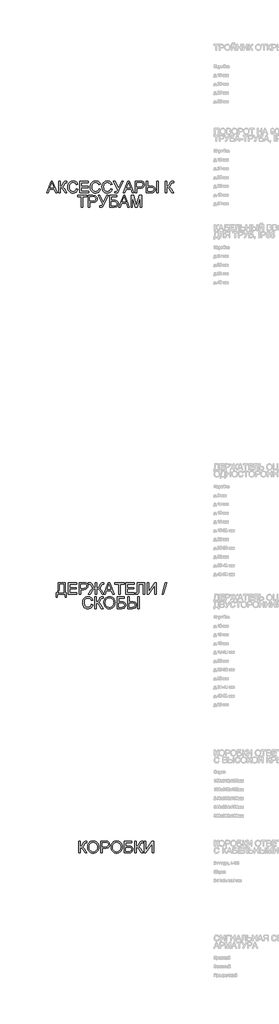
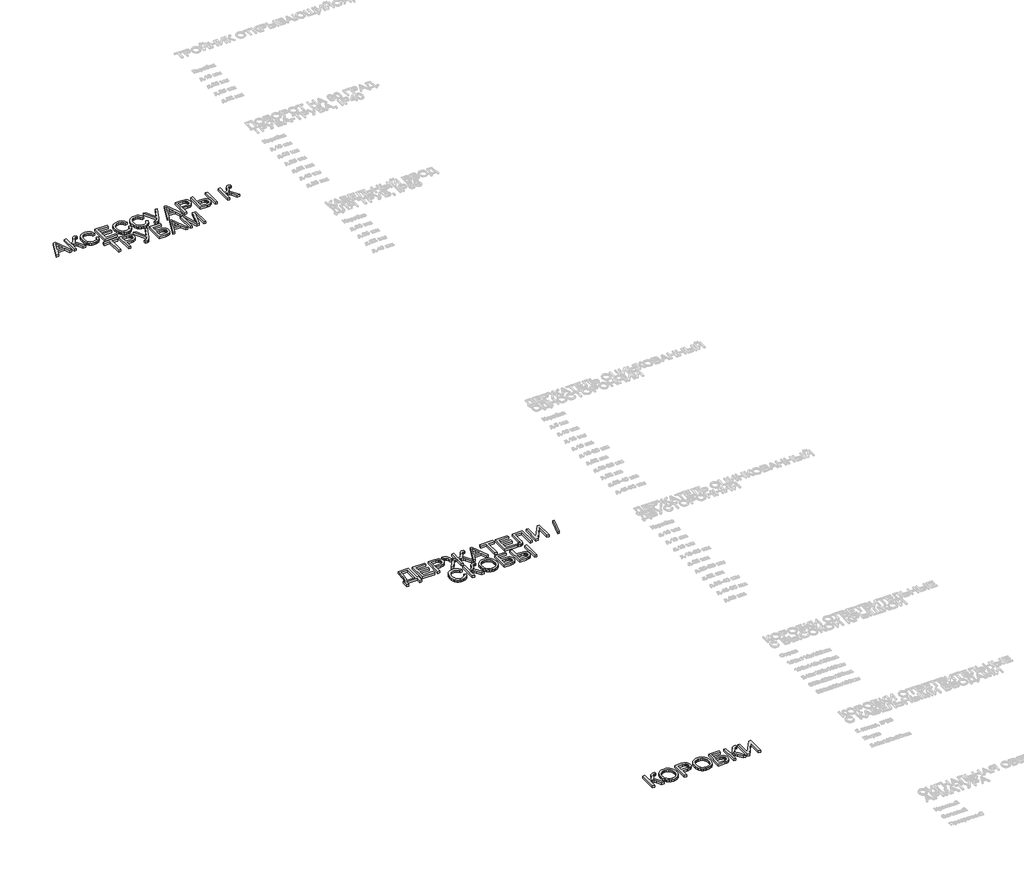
# One storey, part 5 of 98: 3 proxies.
"""IFC4 building model written with IfcOpenShell, lengths in millimetres."""

from ifc_helpers import new_model, si_unit, origin, origin_with_axes, place, context, project, spatial, polyline, outline, extrude, element, save

model = new_model("IFC4")

# Units and contexts
model_context = context("Model", 3, world=origin())
ifc_project = project(units=[si_unit("LENGTHUNIT", "METRE", prefix="MILLI")], contexts=[model_context])

# Site, building, storey
site = spatial("IfcSite", under=ifc_project)
building = spatial("IfcBuilding", under=site)
storey = spatial("IfcBuildingStorey", under=building, Name="Этаж 01", Elevation=0.0)

# Proxies
placement = place(None, origin())
element("IfcBuildingElementProxy", 1, Name="400", ObjectType="400", at=placement, inside=storey, context=model_context, shape_type="SweptSolid", body=[
    extrude(outline(polyline([(-5778.5166082, -22146.8954438), (-5618.1200583, -21745.0702032), (-5575.347645, -21745.0702032), (-5414.9510951, -22146.8954438), (-5468.0242043, -22146.8954438), (-5514.0339791, -22021.3250561), (-5679.531826, -22021.3250561), (-5725.443499, -22146.8954438), (-5778.5166082, -22146.8954438)]), holes=[polyline([(-5661.0886753, -21971.096901), (-5532.379028, -21971.096901), (-5568.5786163, -21872.3083226), (-5596.7338516, -21795.2983583), (-5621.7498273, -21863.6753584), (-5661.0886753, -21971.096901)])]), origin_with_axes(), (0.0, 0.0, 1.0), 50.0),
    extrude(outline(polyline([(-5361.2893747, -21745.0702032), (-5311.0612197, -21745.0702032), (-5311.0612197, -21920.868746), (-5277.0566606, -21917.5455453), (-5254.8979017, -21907.5759432), (-5236.9820486, -21884.1173346), (-5215.7062065, -21840.3271145), (-5187.9924295, -21784.1637965), (-5174.6260504, -21768.9457447), (-5156.5998326, -21756.3519177), (-5135.2013632, -21747.8906318), (-5111.7182292, -21745.0702032), (-5078.7560024, -21745.6588144), (-5078.7560024, -21795.8869695), (-5089.8415132, -21795.5926639), (-5100.927024, -21795.2983583), (-5123.9319114, -21798.3149906), (-5140.1677702, -21807.3648877), (-5154.147286, -21826.3721241), (-5169.9907372, -21859.0645708), (-5189.4271693, -21899.7768449), (-5205.5526634, -21922.0459683), (-5221.4574284, -21933.7691412), (-5240.2316729, -21942.8435638), (-5220.7768467, -21951.1209087), (-5201.4569106, -21965.5541456), (-5182.2718645, -21986.1432746), (-5163.2217085, -22012.8882957), (-5078.7560024, -22146.8954438), (-5137.0285105, -22146.8954438), (-5208.4466685, -22033.6858911), (-5236.0255554, -21997.3759382), (-5258.7238745, -21974.5795172), (-5281.9372284, -21962.549776), (-5311.0612197, -21958.5398623), (-5311.0612197, -22146.8954438), (-5361.2893747, -22146.8954438), (-5361.2893747, -21745.0702032)])), origin_with_axes(), (0.0, 0.0, 1.0), 50.0),
    extrude(outline(polyline([(-4752.2729944, -22004.0591278), (-4702.0448394, -22017.008574), (-4711.9837846, -22048.2448211), (-4725.2214051, -22075.5385995), (-4741.7577008, -22098.8899091), (-4761.5926717, -22118.29875), (-4784.278728, -22133.5566558), (-4809.3682801, -22144.4551599), (-4836.8613279, -22150.9942624), (-4866.7578713, -22153.1739632), (-4897.3871131, -22151.5246256), (-4925.0181167, -22146.5766127), (-4949.6508819, -22138.3299247), (-4971.2854089, -22126.7845614), (-4990.2190689, -22112.1122011), (-5006.7492332, -22094.4845222), (-5020.8759019, -22073.9015246), (-5032.5990748, -22050.3632083), (-5048.3812124, -21998.4918469), (-5053.6419249, -21942.9416657), (-5047.6944993, -21884.3503266), (-5040.2602173, -21858.0528953), (-5029.8522225, -21833.7542895), (-5016.7035069, -21811.8561137), (-5001.0470623, -21792.7599725), (-4982.8828888, -21776.4658658), (-4962.2109864, -21762.9737936), (-4939.7333965, -21752.3941206), (-4916.1521606, -21744.8372113), (-4865.6787508, -21738.7916838), (-4836.9502327, -21740.7475897), (-4810.6068162, -21746.6153076), (-4786.6485012, -21756.3948373), (-4765.0752879, -21770.0861789), (-4746.2427954, -21787.3275817), (-4730.5066431, -21807.7572952), (-4717.8668309, -21831.3753193), (-4708.3233588, -21858.181654), (-4758.5515138, -21870.1500815), (-4775.9645949, -21833.5212976), (-4799.7542973, -21808.3949573), (-4830.2149265, -21793.8636185), (-4867.6407881, -21789.0198389), (-4910.7810834, -21794.390916), (-4929.4633574, -21801.1047624), (-4946.2203823, -21810.5041474), (-4973.1125562, -21835.6672759), (-4990.6114764, -21868.1880442), (-5000.2131965, -21904.9517183), (-5003.4137698, -21942.8435638), (-4999.6245853, -21989.2457461), (-4988.2570316, -22029.3694091), (-4968.8819132, -22061.681711), (-4941.0700344, -22084.6498102), (-4907.7276629, -22098.3718086), (-4871.7610665, -22102.9458081), (-4849.9242044, -22101.388441), (-4829.8347818, -22096.7163396), (-4811.4927986, -22088.9295041), (-4794.898255, -22078.0279343), (-4780.4435582, -22064.0606812), (-4768.5211159, -22047.0767958), (-4759.130928, -22027.076278), (-4752.2729944, -22004.0591278)])), origin_with_axes(), (0.0, 0.0, 1.0), 50.0),
    extrude(outline(polyline([(-4632.9811261, -22146.8954438), (-4632.9811261, -21745.0702032), (-4344.1692345, -21745.0702032), (-4344.1692345, -21795.2983583), (-4582.7529711, -21795.2983583), (-4582.7529711, -21914.5902266), (-4356.7262732, -21914.5902266), (-4356.7262732, -21964.8183816), (-4582.7529711, -21964.8183816), (-4582.7529711, -22096.6672887), (-4337.8907151, -22096.6672887), (-4337.8907151, -22146.8954438), (-4632.9811261, -22146.8954438)])), origin_with_axes(), (0.0, 0.0, 1.0), 50.0),
    extrude(outline(polyline([(-3980.0151102, -22004.0591278), (-3929.7869551, -22017.008574), (-3939.7259003, -22048.2448211), (-3952.9635208, -22075.5385995), (-3969.4998165, -22098.8899091), (-3989.3347874, -22118.29875), (-4012.0208438, -22133.5566558), (-4037.1103958, -22144.4551599), (-4064.6034436, -22150.9942624), (-4094.4999871, -22153.1739632), (-4125.1292289, -22151.5246256), (-4152.7602324, -22146.5766127), (-4177.3929976, -22138.3299247), (-4199.0275246, -22126.7845614), (-4217.9611847, -22112.1122011), (-4234.491349, -22094.4845222), (-4248.6180176, -22073.9015246), (-4260.3411905, -22050.3632083), (-4276.1233281, -21998.4918469), (-4281.3840406, -21942.9416657), (-4275.436615, -21884.3503266), (-4268.002333, -21858.0528953), (-4257.5943383, -21833.7542895), (-4244.4456226, -21811.8561137), (-4228.789178, -21792.7599725), (-4210.6250045, -21776.4658658), (-4189.9531021, -21762.9737936), (-4167.4755122, -21752.3941206), (-4143.8942763, -21744.8372113), (-4093.4208666, -21738.7916838), (-4064.6923484, -21740.7475897), (-4038.3489319, -21746.6153076), (-4014.3906169, -21756.3948373), (-3992.8174036, -21770.0861789), (-3973.9849111, -21787.3275817), (-3958.2487588, -21807.7572952), (-3945.6089466, -21831.3753193), (-3936.0654745, -21858.181654), (-3986.2936296, -21870.1500815), (-4003.7067107, -21833.5212976), (-4027.496413, -21808.3949573), (-4057.9570422, -21793.8636185), (-4095.3829039, -21789.0198389), (-4138.5231992, -21794.390916), (-4157.2054732, -21801.1047624), (-4173.962498, -21810.5041474), (-4200.8546719, -21835.6672759), (-4218.3535921, -21868.1880442), (-4227.9553122, -21904.9517183), (-4231.1558855, -21942.8435638), (-4227.366701, -21989.2457461), (-4215.9991473, -22029.3694091), (-4196.6240289, -22061.681711), (-4168.8121501, -22084.6498102), (-4135.4697786, -22098.3718086), (-4099.5031822, -22102.9458081), (-4077.6663201, -22101.388441), (-4057.5768975, -22096.7163396), (-4039.2349143, -22088.9295041), (-4022.6403707, -22078.0279343), (-4008.185674, -22064.0606812), (-3996.2632316, -22047.0767958), (-3986.8730437, -22027.076278), (-3980.0151102, -22004.0591278)])), origin_with_axes(), (0.0, 0.0, 1.0), 50.0),
    extrude(outline(polyline([(-3578.1898696, -22004.0591278), (-3527.9617145, -22017.008574), (-3537.9006597, -22048.2448211), (-3551.1382802, -22075.5385995), (-3567.6745759, -22098.8899091), (-3587.5095468, -22118.29875), (-3610.1956032, -22133.5566558), (-3635.2851552, -22144.4551599), (-3662.778203, -22150.9942624), (-3692.6747465, -22153.1739632), (-3723.3039883, -22151.5246256), (-3750.9349918, -22146.5766127), (-3775.567757, -22138.3299247), (-3797.202284, -22126.7845614), (-3816.1359441, -22112.1122011), (-3832.6661084, -22094.4845222), (-3846.792777, -22073.9015246), (-3858.5159499, -22050.3632083), (-3874.2980875, -21998.4918469), (-3879.5588, -21942.9416657), (-3873.6113744, -21884.3503266), (-3866.1770924, -21858.0528953), (-3855.7690977, -21833.7542895), (-3842.620382, -21811.8561137), (-3826.9639374, -21792.7599725), (-3808.7997639, -21776.4658658), (-3788.1278615, -21762.9737936), (-3765.6502716, -21752.3941206), (-3742.0690357, -21744.8372113), (-3691.595626, -21738.7916838), (-3662.8671078, -21740.7475897), (-3636.5236913, -21746.6153076), (-3612.5653763, -21756.3948373), (-3590.992163, -21770.0861789), (-3572.1596705, -21787.3275817), (-3556.4235182, -21807.7572952), (-3543.783706, -21831.3753193), (-3534.2402339, -21858.181654), (-3584.468389, -21870.1500815), (-3601.8814701, -21833.5212976), (-3625.6711724, -21808.3949573), (-3656.1318016, -21793.8636185), (-3693.5576633, -21789.0198389), (-3736.6979586, -21794.390916), (-3755.3802326, -21801.1047624), (-3772.1372574, -21810.5041474), (-3799.0294313, -21835.6672759), (-3816.5283515, -21868.1880442), (-3826.1300716, -21904.9517183), (-3829.3306449, -21942.8435638), (-3825.5414604, -21989.2457461), (-3814.1739067, -22029.3694091), (-3794.7987883, -22061.681711), (-3766.9869095, -22084.6498102), (-3733.644538, -22098.3718086), (-3697.6779416, -22102.9458081), (-3675.8410795, -22101.388441), (-3655.7516569, -22096.7163396), (-3637.4096737, -22088.9295041), (-3620.8151301, -22078.0279343), (-3606.3604334, -22064.0606812), (-3594.437991, -22047.0767958), (-3585.0478031, -22027.076278), (-3578.1898696, -22004.0591278)])), origin_with_axes(), (0.0, 0.0, 1.0), 50.0),
    extrude(outline(polyline([(-3487.1513385, -21745.0702032), (-3431.5275808, -21745.0702032), (-3311.3527957, -21983.0653286), (-3203.2445401, -21745.0702032), (-3148.1112917, -21745.0702032), (-3300.6596924, -22058.1132556), (-3323.6891053, -22106.7227299), (-3342.1567815, -22135.0251181), (-3361.8507309, -22148.6367519), (-3388.5589638, -22153.1739632), (-3433.7839237, -22146.8954438), (-3433.7839237, -22102.9458081), (-3394.248872, -22102.9458081), (-3378.4299462, -22100.1499049), (-3364.9164142, -22091.7621954), (-3351.9424425, -22073.4416721), (-3337.7421975, -22040.8473273), (-3487.1513385, -21745.0702032)])), origin_with_axes(), (0.0, 0.0, 1.0), 50.0),
    extrude(outline(polyline([(-3147.8169862, -22146.8954438), (-2987.4204363, -21745.0702032), (-2944.6480229, -21745.0702032), (-2784.2514731, -22146.8954438), (-2837.3245822, -22146.8954438), (-2883.3343571, -22021.3250561), (-3048.832204, -22021.3250561), (-3094.743877, -22146.8954438), (-3147.8169862, -22146.8954438)]), holes=[polyline([(-3030.3890533, -21971.096901), (-2901.6794059, -21971.096901), (-2937.8789942, -21872.3083226), (-2966.0342296, -21795.2983583), (-2991.0502053, -21863.6753584), (-3030.3890533, -21971.096901)])]), origin_with_axes(), (0.0, 0.0, 1.0), 50.0),
    extrude(outline(polyline([(-2730.5897527, -22146.8954438), (-2730.5897527, -21745.0702032), (-2581.671121, -21745.0702032), (-2521.6327794, -21748.8961759), (-2494.8632329, -21756.0453494), (-2472.8271014, -21767.6826832), (-2455.0829265, -21784.3354748), (-2441.1892498, -21806.5310219), (-2432.2129291, -21832.7119572), (-2429.2208222, -21861.3209137), (-2431.2411075, -21885.9874014), (-2437.3019634, -21908.6795892), (-2447.4033899, -21929.3974769), (-2461.5453869, -21948.1410645), (-2480.9603592, -21963.6779475), (-2506.8807114, -21974.775721), (-2539.3064436, -21981.4343851), (-2578.2375558, -21983.6539398), (-2680.3615976, -21983.6539398), (-2680.3615976, -22146.8954438), (-2730.5897527, -22146.8954438)]), holes=[polyline([(-2680.3615976, -21933.4257847), (-2575.2944998, -21933.4257847), (-2530.7562529, -21928.814997), (-2514.1525122, -21923.0515125), (-2501.3256933, -21914.982634), (-2491.7546301, -21904.8229596), (-2484.9181563, -21892.787087), (-2479.4489773, -21863.0867472), (-2482.6740761, -21840.5233182), (-2492.3493726, -21821.4915563), (-2507.2731189, -21807.168684), (-2526.2435671, -21798.7319236), (-2576.4717222, -21795.2983583), (-2680.3615976, -21795.2983583), (-2680.3615976, -21933.4257847)])]), origin_with_axes(), (0.0, 0.0, 1.0), 50.0),
    extrude(outline(polyline([(-2008.5600235, -21745.0702032), (-1958.3318684, -21745.0702032), (-1958.3318684, -22146.8954438), (-2008.5600235, -22146.8954438), (-2008.5600235, -21745.0702032)])), origin_with_axes(), (0.0, 0.0, 1.0), 50.0),
    extrude(outline(polyline([(-2360.157109, -21745.0702032), (-2309.9289539, -21745.0702032), (-2309.9289539, -21914.5902266), (-2213.3967184, -21914.5902266), (-2170.0663507, -21916.7852558), (-2134.8416497, -21923.3703435), (-2107.7226153, -21934.3454897), (-2088.7092475, -21949.7106944), (-2075.6187798, -21967.8595395), (-2066.2684458, -21987.1856069), (-2060.6582454, -22007.6888968), (-2058.7881786, -22029.3694091), (-2060.7655443, -22052.1321075), (-2066.6976415, -22073.4294094), (-2076.5844701, -22093.2613146), (-2090.4260301, -22111.6278232), (-2109.6386673, -22127.0574072), (-2135.6387274, -22138.0785386), (-2168.4262102, -22144.6912175), (-2208.0011158, -22146.8954438), (-2360.157109, -22146.8954438), (-2360.157109, -21745.0702032)]), holes=[polyline([(-2309.9289539, -22096.6672887), (-2208.4916251, -22096.6672887), (-2163.3770298, -22092.6819004), (-2132.6098323, -22080.7257356), (-2122.2876766, -22071.5562769), (-2114.9147083, -22059.9894538), (-2110.4909273, -22046.0252664), (-2109.0163336, -22029.6637147), (-2112.584789, -22007.7624732), (-2123.2901551, -21989.7362554), (-2139.6486411, -21976.56608), (-2160.1764564, -21969.2329656), (-2235.6658418, -21964.8183816), (-2309.9289539, -21964.8183816), (-2309.9289539, -22096.6672887)])]), origin_with_axes(), (0.0, 0.0, 1.0), 50.0),
    extrude(outline(polyline([(-1707.191093, -21745.0702032), (-1656.962938, -21745.0702032), (-1656.962938, -21920.868746), (-1622.9583789, -21917.5455453), (-1600.79962, -21907.5759432), (-1582.8837669, -21884.1173346), (-1561.6079248, -21840.3271145), (-1533.8941478, -21784.1637965), (-1520.5277687, -21768.9457447), (-1502.5015509, -21756.3519177), (-1481.1030815, -21747.8906318), (-1457.6199475, -21745.0702032), (-1424.6577207, -21745.6588144), (-1424.6577207, -21795.8869695), (-1435.7432315, -21795.5926639), (-1446.8287423, -21795.2983583), (-1469.8336298, -21798.3149906), (-1486.0694885, -21807.3648877), (-1500.0490043, -21826.3721241), (-1515.8924555, -21859.0645708), (-1535.3288876, -21899.7768449), (-1551.4543817, -21922.0459683), (-1567.3591467, -21933.7691412), (-1586.1333912, -21942.8435638), (-1566.678565, -21951.1209087), (-1547.3586289, -21965.5541456), (-1528.1735828, -21986.1432746), (-1509.1234268, -22012.8882957), (-1424.6577207, -22146.8954438), (-1482.9302288, -22146.8954438), (-1554.3483868, -22033.6858911), (-1581.9272737, -21997.3759382), (-1604.6255928, -21974.5795172), (-1627.8389467, -21962.549776), (-1656.962938, -21958.5398623), (-1656.962938, -22146.8954438), (-1707.191093, -22146.8954438), (-1707.191093, -21745.0702032)])), origin_with_axes(), (0.0, 0.0, 1.0), 50.0),
    extrude(outline(polyline([(-4585.8922308, -22634.7947152), (-4585.8922308, -22283.1976296), (-4717.7411378, -22283.1976296), (-4717.7411378, -22232.9694746), (-4403.8151686, -22232.9694746), (-4403.8151686, -22283.1976296), (-4535.6640757, -22283.1976296), (-4535.6640757, -22634.7947152), (-4585.8922308, -22634.7947152)])), origin_with_axes(), (0.0, 0.0, 1.0), 50.0),
    extrude(outline(polyline([(-4347.3084942, -22634.7947152), (-4347.3084942, -22232.9694746), (-4198.3898625, -22232.9694746), (-4138.3515209, -22236.7954473), (-4111.5819744, -22243.9446208), (-4089.5458429, -22255.5819545), (-4071.801668, -22272.2347462), (-4057.9079913, -22294.4302932), (-4048.9316706, -22320.6112286), (-4045.9395637, -22349.220185), (-4047.959849, -22373.8866728), (-4054.0207049, -22396.5788606), (-4064.1221313, -22417.2967483), (-4078.2641284, -22436.0403359), (-4097.6791006, -22451.5772188), (-4123.5994529, -22462.6749924), (-4156.0251851, -22469.3336565), (-4194.9562972, -22471.5532112), (-4297.0803391, -22471.5532112), (-4297.0803391, -22634.7947152), (-4347.3084942, -22634.7947152)]), holes=[polyline([(-4297.0803391, -22421.3250561), (-4192.0132413, -22421.3250561), (-4147.4749944, -22416.7142684), (-4130.8712537, -22410.9507838), (-4118.0444348, -22402.8819054), (-4108.4733715, -22392.722231), (-4101.6368978, -22380.6863584), (-4096.1677188, -22350.9860186), (-4099.3928176, -22328.4225896), (-4109.0681141, -22309.3908277), (-4123.9918604, -22295.0679554), (-4142.9623086, -22286.6311949), (-4193.1904636, -22283.1976296), (-4297.0803391, -22283.1976296), (-4297.0803391, -22421.3250561)])]), origin_with_axes(), (0.0, 0.0, 1.0), 50.0),
    extrude(outline(polyline([(-4005.1291877, -22232.9694746), (-3949.50543, -22232.9694746), (-3829.3306449, -22470.9646), (-3721.2223893, -22232.9694746), (-3666.089141, -22232.9694746), (-3818.6375416, -22546.012527), (-3841.6669545, -22594.6220013), (-3860.1346307, -22622.9243895), (-3879.8285802, -22636.5360233), (-3906.536813, -22641.0732346), (-3951.7617729, -22634.7947152), (-3951.7617729, -22590.8450795), (-3912.2267212, -22590.8450795), (-3896.4077954, -22588.0491763), (-3882.8942634, -22579.6614668), (-3869.9202918, -22561.3409435), (-3855.7200467, -22528.7465987), (-4005.1291877, -22232.9694746)])), origin_with_axes(), (0.0, 0.0, 1.0), 50.0),
    extrude(outline(polyline([(-3619.0002456, -22232.9694746), (-3367.8594702, -22232.9694746), (-3367.8594702, -22283.1976296), (-3568.7720905, -22283.1976296), (-3568.7720905, -22402.4894979), (-3474.6924016, -22402.4894979), (-3427.9223373, -22405.0401464), (-3391.7963254, -22412.6920919), (-3364.0580229, -22427.4318972), (-3342.4510871, -22451.246125), (-3328.5451476, -22481.902958), (-3323.9098345, -22517.1705786), (-3327.2085097, -22546.7850792), (-3337.1045354, -22574.413017), (-3353.5488606, -22598.6073896), (-3376.4924344, -22617.9211943), (-3391.8882959, -22625.3033597), (-3411.8826823, -22630.576335), (-3465.66703, -22634.7947152), (-3619.0002456, -22634.7947152), (-3619.0002456, -22232.9694746)]), holes=[polyline([(-3568.7720905, -22584.5665601), (-3461.1543442, -22584.5665601), (-3423.1153459, -22580.4217563), (-3395.9166037, -22567.9873448), (-3386.38846, -22558.6615363), (-3379.5826431, -22547.2633258), (-3374.1379896, -22518.2496991), (-3377.2527238, -22496.6427632), (-3386.5969265, -22478.9108511), (-3401.4961473, -22465.7652011), (-3421.2759359, -22457.9170519), (-3451.3073694, -22454.0175027), (-3496.961525, -22452.717653), (-3568.7720905, -22452.717653), (-3568.7720905, -22584.5665601)])]), origin_with_axes(), (0.0, 0.0, 1.0), 50.0),
    extrude(outline(polyline([(-3301.6407111, -22634.7947152), (-3141.2441612, -22232.9694746), (-3098.4717479, -22232.9694746), (-2938.075198, -22634.7947152), (-2991.1483071, -22634.7947152), (-3037.158082, -22509.2243275), (-3202.6559289, -22509.2243275), (-3248.5676019, -22634.7947152), (-3301.6407111, -22634.7947152)]), holes=[polyline([(-3184.2127782, -22458.9961724), (-3055.5031308, -22458.9961724), (-3091.7027192, -22360.207594), (-3119.8579545, -22283.1976296), (-3144.8739302, -22351.5746298), (-3184.2127782, -22458.9961724)])]), origin_with_axes(), (0.0, 0.0, 1.0), 50.0),
    extrude(outline(polyline([(-2884.4134776, -22634.7947152), (-2884.4134776, -22232.9694746), (-2797.9857342, -22232.9694746), (-2715.776371, -22516.1895599), (-2699.1971558, -22575.3449847), (-2681.2445144, -22511.2844667), (-2600.4085773, -22232.9694746), (-2513.9808339, -22232.9694746), (-2513.9808339, -22634.7947152), (-2564.208989, -22634.7947152), (-2564.208989, -22283.1976296), (-2665.1558085, -22634.7947152), (-2733.2385031, -22634.7947152), (-2834.1853225, -22283.1976296), (-2834.1853225, -22634.7947152), (-2884.4134776, -22634.7947152)])), origin_with_axes(), (0.0, 0.0, 1.0), 50.0),
])
element("IfcBuildingElementProxy", 2, Name="400", ObjectType="400", at=placement, inside=storey, context=model_context, shape_type="SweptSolid", body=[
    extrude(outline(polyline([(-5372.0312812, -35500.6828342), (-5133.4475446, -35500.6828342), (-5133.4475446, -35852.2799198), (-5095.7764283, -35852.2799198), (-5095.7764283, -35996.6858656), (-5146.0045833, -35996.6858656), (-5146.0045833, -35902.5080748), (-5403.4238781, -35902.5080748), (-5403.4238781, -35996.6858656), (-5453.6520332, -35996.6858656), (-5453.6520332, -35852.2799198), (-5422.2594363, -35852.2799198), (-5410.4872124, -35831.8149509), (-5400.2846184, -35806.7177346), (-5384.58832, -35742.6265597), (-5375.1705409, -35660.006395), (-5372.0312812, -35558.8572404), (-5372.0312812, -35500.6828342)]), holes=[polyline([(-5183.6756997, -35550.9109893), (-5321.8031261, -35550.9109893), (-5321.8031261, -35571.1199736), (-5324.3537746, -35630.6923313), (-5332.0057201, -35708.7568907), (-5347.1134074, -35788.2929781), (-5358.346071, -35822.2300921), (-5372.0312812, -35852.2799198), (-5183.6756997, -35852.2799198), (-5183.6756997, -35550.9109893)])]), origin_with_axes(), (0.0, 0.0, 1.0), 50.0),
    extrude(outline(polyline([(-5032.9912344, -35902.5080748), (-5032.9912344, -35500.6828342), (-4744.1793427, -35500.6828342), (-4744.1793427, -35550.9109893), (-4982.7630794, -35550.9109893), (-4982.7630794, -35670.2028576), (-4756.7363815, -35670.2028576), (-4756.7363815, -35720.4310127), (-4982.7630794, -35720.4310127), (-4982.7630794, -35852.2799198), (-4737.9008234, -35852.2799198), (-4737.9008234, -35902.5080748), (-5032.9912344, -35902.5080748)])), origin_with_axes(), (0.0, 0.0, 1.0), 50.0),
    extrude(outline(polyline([(-4662.5585908, -35902.5080748), (-4662.5585908, -35500.6828342), (-4513.6399591, -35500.6828342), (-4453.6016175, -35504.508807), (-4426.832071, -35511.6579804), (-4404.7959395, -35523.2953142), (-4387.0517646, -35539.9481058), (-4373.1580879, -35562.1436529), (-4364.1817672, -35588.3245882), (-4361.1896603, -35616.9335447), (-4363.2099456, -35641.6000325), (-4369.2708015, -35664.2922202), (-4379.3722279, -35685.0101079), (-4393.5142249, -35703.7536956), (-4412.9291972, -35719.2905785), (-4438.8495495, -35730.388352), (-4471.2752817, -35737.0470161), (-4510.2063938, -35739.2665708), (-4612.3304357, -35739.2665708), (-4612.3304357, -35902.5080748), (-4662.5585908, -35902.5080748)]), holes=[polyline([(-4612.3304357, -35689.0384158), (-4507.2633379, -35689.0384158), (-4462.725091, -35684.4276281), (-4446.1213503, -35678.6641435), (-4433.2945314, -35670.5952651), (-4423.7234681, -35660.4355906), (-4416.8869944, -35648.399718), (-4411.4178154, -35618.6993783), (-4414.6429142, -35596.1359492), (-4424.3182107, -35577.1041874), (-4439.2419569, -35562.781315), (-4458.2124052, -35554.3445546), (-4508.4405602, -35550.9109893), (-4612.3304357, -35550.9109893), (-4612.3304357, -35689.0384158)])]), origin_with_axes(), (0.0, 0.0, 1.0), 50.0),
    extrude(outline(polyline([(-4053.5422105, -35500.6828342), (-4053.5422105, -35676.481377), (-4016.8030619, -35673.0968626), (-3993.7000726, -35662.9433196), (-3975.6248039, -35639.4479228), (-3953.9688171, -35596.0378474), (-3925.5192761, -35539.8745294), (-3911.968956, -35524.5829012), (-3893.6852208, -35511.9645487), (-3872.0414968, -35503.5032629), (-3848.41121, -35500.6828342), (-3814.9584739, -35501.2714454), (-3814.9584739, -35550.9109893), (-3825.9458828, -35550.6166837), (-3837.2275973, -35550.3223781), (-3860.6984686, -35553.3880614), (-3877.1550565, -35562.5851113), (-3891.4288779, -35581.5432968), (-3907.5666348, -35613.8923869), (-3924.8693513, -35649.3439485), (-3939.6949957, -35671.3310291), (-3956.3355246, -35685.2982821), (-3979.0828946, -35696.6903613), (-3959.0762455, -35705.2987999), (-3939.3761646, -35720.1367071), (-3919.9826521, -35741.2040827), (-3900.8957079, -35768.5009267), (-3814.9584739, -35902.5080748), (-3873.3290838, -35902.5080748), (-3946.2187697, -35788.8080128), (-3973.6750293, -35753.9082742), (-3996.3978739, -35731.0260141), (-4020.8620266, -35718.3708735), (-4053.5422105, -35714.1524933), (-4053.5422105, -35902.5080748), (-4103.7703655, -35902.5080748), (-4103.7703655, -35714.1524933), (-4131.2756761, -35717.4266431), (-4155.3228958, -35727.2490923), (-4179.5172684, -35747.8872723), (-4207.4640373, -35783.608614), (-4211.0938063, -35788.8080128), (-4283.9834922, -35902.5080748), (-4342.3541021, -35902.5080748), (-4256.5149699, -35768.5009267), (-4237.1214574, -35741.0937181), (-4217.5930549, -35719.9895543), (-4197.9297622, -35705.1884353), (-4178.1315795, -35696.6903613), (-4198.880124, -35686.7452847), (-4215.4102883, -35673.9797794), (-4231.2046887, -35651.8700715), (-4249.7459412, -35613.8923869), (-4266.6930385, -35579.9491415), (-4281.0404363, -35561.5059908), (-4297.2027186, -35553.5597397), (-4319.7906731, -35550.9109893), (-4342.3541021, -35551.4996005), (-4342.3541021, -35501.2714454), (-4310.6671996, -35500.6828342), (-4285.3078674, -35503.4419492), (-4263.5783042, -35511.7192941), (-4245.8096039, -35524.1537055), (-4232.3328601, -35539.3840201), (-4203.3437589, -35596.1359492), (-4181.6755094, -35640.0242713), (-4163.7596562, -35663.1885742), (-4140.7425061, -35672.9129216), (-4103.7703655, -35676.481377), (-4103.7703655, -35500.6828342), (-4053.5422105, -35500.6828342)])), origin_with_axes(), (0.0, 0.0, 1.0), 50.0),
    extrude(outline(polyline([(-3824.0819473, -35902.5080748), (-3663.6853974, -35500.6828342), (-3620.9129841, -35500.6828342), (-3460.5164342, -35902.5080748), (-3513.5895434, -35902.5080748), (-3559.5993183, -35776.9376871), (-3725.0971652, -35776.9376871), (-3771.0088382, -35902.5080748), (-3824.0819473, -35902.5080748)]), holes=[polyline([(-3706.6540145, -35726.7095321), (-3577.9443671, -35726.7095321), (-3614.1439554, -35627.9209536), (-3642.2991908, -35550.9109893), (-3667.3151665, -35619.2879895), (-3706.6540145, -35726.7095321)])]), origin_with_axes(), (0.0, 0.0, 1.0), 50.0),
    extrude(outline(polyline([(-3306.3984037, -35902.5080748), (-3306.3984037, -35550.9109893), (-3438.2473108, -35550.9109893), (-3438.2473108, -35500.6828342), (-3124.3213416, -35500.6828342), (-3124.3213416, -35550.9109893), (-3256.1702487, -35550.9109893), (-3256.1702487, -35902.5080748), (-3306.3984037, -35902.5080748)])), origin_with_axes(), (0.0, 0.0, 1.0), 50.0),
    extrude(outline(polyline([(-3067.8146671, -35902.5080748), (-3067.8146671, -35500.6828342), (-2779.0027754, -35500.6828342), (-2779.0027754, -35550.9109893), (-3017.5865121, -35550.9109893), (-3017.5865121, -35670.2028576), (-2791.5598142, -35670.2028576), (-2791.5598142, -35720.4310127), (-3017.5865121, -35720.4310127), (-3017.5865121, -35852.2799198), (-2772.7242561, -35852.2799198), (-2772.7242561, -35902.5080748), (-3067.8146671, -35902.5080748)])), origin_with_axes(), (0.0, 0.0, 1.0), 50.0),
    extrude(outline(polyline([(-2665.9894265, -35500.6828342), (-2421.1271705, -35500.6828342), (-2421.1271705, -35902.5080748), (-2471.3553256, -35902.5080748), (-2471.3553256, -35550.9109893), (-2615.7612715, -35550.9109893), (-2615.7612715, -35755.9438879), (-2617.2205367, -35810.0102785), (-2621.5983324, -35847.4238774), (-2630.6359668, -35873.2737189), (-2646.0747479, -35892.6488374), (-2667.2156998, -35904.752155), (-2693.359847, -35908.7865942), (-2735.0531398, -35902.5080748), (-2728.7746204, -35852.2799198), (-2704.7396634, -35858.5584391), (-2687.7557779, -35855.1861875), (-2675.6524603, -35845.0694326), (-2668.405185, -35822.4446899), (-2665.9894265, -35781.5484748), (-2665.9894265, -35500.6828342)])), origin_with_axes(), (0.0, 0.0, 1.0), 50.0),
    extrude(outline(polyline([(-2333.2278992, -35500.6828342), (-2282.9997441, -35500.6828342), (-2282.9997441, -35818.9252855), (-2072.6693447, -35500.6828342), (-2019.3019299, -35500.6828342), (-2019.3019299, -35902.5080748), (-2069.530085, -35902.5080748), (-2069.530085, -35585.1485403), (-2279.3699751, -35902.5080748), (-2333.2278992, -35902.5080748), (-2333.2278992, -35500.6828342)])), origin_with_axes(), (0.0, 0.0, 1.0), 50.0),
    extrude(outline(polyline([(-1818.3893096, -35902.5080748), (-1705.3759607, -35500.6828342), (-1660.0528989, -35500.6828342), (-1773.0662478, -35902.5080748), (-1818.3893096, -35902.5080748)])), origin_with_axes(), (0.0, 0.0, 1.0), 50.0),
    extrude(outline(polyline([(-4241.897792, -36247.5710302), (-4191.6696369, -36260.5204764), (-4201.6085822, -36291.7567235), (-4214.8462026, -36319.0505019), (-4231.3824983, -36342.4018115), (-4251.2174692, -36361.8106524), (-4273.9035256, -36377.0685582), (-4298.9930777, -36387.9670623), (-4326.4861254, -36394.5061648), (-4356.3826689, -36396.6858656), (-4387.0119107, -36395.036528), (-4414.6429142, -36390.0885151), (-4439.2756795, -36381.8418271), (-4460.9102065, -36370.2964638), (-4479.8438665, -36355.6241036), (-4496.3740308, -36337.9964246), (-4510.5006994, -36317.413427), (-4522.2238723, -36293.8751107), (-4538.0060099, -36242.0037494), (-4543.2667224, -36186.4535681), (-4537.3192969, -36127.862229), (-4529.8850149, -36101.5647977), (-4519.4770201, -36077.2661919), (-4506.3283044, -36055.3680161), (-4490.6718599, -36036.2718749), (-4472.5076864, -36019.9777682), (-4451.8357839, -36006.485696), (-4429.358194, -35995.906023), (-4405.7769581, -35988.3491137), (-4355.3035484, -35982.3035862), (-4326.5750302, -35984.2594922), (-4300.2316137, -35990.12721), (-4276.2732988, -35999.9067397), (-4254.7000854, -36013.5980813), (-4235.867593, -36030.8394841), (-4220.1314406, -36051.2691976), (-4207.4916284, -36074.8872217), (-4197.9481563, -36101.6935564), (-4248.1763114, -36113.661984), (-4265.5893925, -36077.0332), (-4289.3790948, -36051.9068597), (-4319.839724, -36037.3755209), (-4357.2655857, -36032.5317413), (-4400.405881, -36037.9028184), (-4419.088155, -36044.6166648), (-4435.8451799, -36054.0160498), (-4462.7373537, -36079.1791783), (-4480.2362739, -36111.6999467), (-4489.837994, -36148.4636207), (-4493.0385674, -36186.3554662), (-4489.2493828, -36232.7576485), (-4477.8818292, -36272.8813115), (-4458.5067108, -36305.1936134), (-4430.6948319, -36328.1617126), (-4397.3524604, -36341.883711), (-4361.385864, -36346.4577105), (-4339.5490019, -36344.9003434), (-4319.4595793, -36340.2282421), (-4301.1175962, -36332.4414065), (-4284.5230525, -36321.5398367), (-4270.0683558, -36307.5725836), (-4258.1459135, -36290.5886982), (-4248.7557255, -36270.5881804), (-4241.897792, -36247.5710302)])), origin_with_axes(), (0.0, 0.0, 1.0), 50.0),
    extrude(outline(polyline([(-4122.6059237, -35988.5821056), (-4072.3777686, -35988.5821056), (-4072.3777686, -36164.3806484), (-4038.3732095, -36161.0574477), (-4016.2144507, -36151.0878456), (-3998.2985975, -36127.6292371), (-3977.0227555, -36083.8390169), (-3949.3089785, -36027.675699), (-3935.9425993, -36012.4576471), (-3917.9163816, -35999.8638201), (-3896.5179122, -35991.4025342), (-3873.0347782, -35988.5821056), (-3840.0725514, -35989.1707168), (-3840.0725514, -36039.3988719), (-3851.1580622, -36039.1045663), (-3862.243573, -36038.8102607), (-3885.2484604, -36041.826893), (-3901.4843191, -36050.8767901), (-3915.4638349, -36069.8840265), (-3931.3072862, -36102.5764732), (-3950.7437183, -36143.2887473), (-3966.8692124, -36165.5578708), (-3982.7739773, -36177.2810437), (-4001.5482218, -36186.3554662), (-3982.0933956, -36194.6328111), (-3962.7734595, -36209.0660481), (-3943.5884135, -36229.655177), (-3924.5382575, -36256.4001981), (-3840.0725514, -36390.4073462), (-3898.3450594, -36390.4073462), (-3969.7632174, -36277.1977936), (-3997.3421043, -36240.8878406), (-4020.0404234, -36218.0914197), (-4043.2537773, -36206.0616784), (-4072.3777686, -36202.0517647), (-4072.3777686, -36390.4073462), (-4122.6059237, -36390.4073462), (-4122.6059237, -35988.5821056)])), origin_with_axes(), (0.0, 0.0, 1.0), 50.0),
    extrude(outline(polyline([(-3814.9584739, -36194.7922266), (-3811.6107477, -36147.6604117), (-3801.5675692, -36105.9364621), (-3784.8289385, -36069.6203778), (-3761.3948554, -36038.7121588), (-3732.6694029, -36014.0334083), (-3700.056664, -35996.4057294), (-3663.5566387, -35985.829122), (-3623.169327, -35982.3035862), (-3596.1361318, -35983.9590552), (-3570.4640999, -35988.9254621), (-3546.1532314, -35997.202807), (-3523.2035262, -36008.7910899), (-3502.258778, -36023.3408228), (-3483.9627801, -36040.5025179), (-3468.3155325, -36060.2761751), (-3455.3170354, -36082.6617945), (-3445.1021786, -36107.1504727), (-3437.8058524, -36133.2333061), (-3431.9687914, -36190.181439), (-3433.5046987, -36219.8388591), (-3438.1124207, -36247.8898613), (-3445.7919574, -36274.3344454), (-3456.5433087, -36299.1726114), (-3470.112023, -36321.7483032), (-3486.2436484, -36341.4054644), (-3504.9381852, -36358.1440952), (-3526.1956331, -36371.9641955), (-3549.1790608, -36382.7799262), (-3573.0515366, -36390.5054481), (-3597.8130605, -36395.1407612), (-3623.4636326, -36396.6858656), (-3650.9689431, -36394.97828), (-3676.9782002, -36389.8555232), (-3701.4914038, -36381.3175952), (-3724.508554, -36369.3644961), (-3745.4287768, -36354.4591439), (-3763.6511983, -36337.0644569), (-3779.1758185, -36317.1804351), (-3792.0026374, -36294.8070784), (-3809.2195147, -36246.1853414), (-3814.9584739, -36194.7922266)]), holes=[polyline([(-3764.7303188, -36195.282736), (-3762.2195242, -36228.5821879), (-3754.6871403, -36258.1415062), (-3742.1331672, -36283.9606909), (-3724.5576049, -36306.039742), (-3703.192858, -36323.7226032), (-3679.2713313, -36336.3532184), (-3652.7930247, -36343.9315875), (-3623.7579382, -36346.4577105), (-3594.2262111, -36343.907062), (-3567.4352048, -36336.2551165), (-3543.3849193, -36323.501874), (-3522.0753548, -36305.6473345), (-3504.6285511, -36283.1022996), (-3492.1665486, -36256.2775708), (-3484.689347, -36225.1731481), (-3482.1969465, -36189.7890315), (-3486.4643776, -36145.324361), (-3499.2666711, -36106.8929553), (-3520.272733, -36075.4635701), (-3549.1514696, -36052.0049616), (-3583.9898946, -36037.4000464), (-3622.8750214, -36032.5317413), (-3650.9014981, -36034.876989), (-3676.9046238, -36041.9127322), (-3700.8843985, -36053.6389708), (-3722.8408223, -36070.0557048), (-3741.167477, -36091.9538806), (-3754.2579447, -36120.1244443), (-3762.1122253, -36154.5673961), (-3764.7303188, -36195.282736)])]), origin_with_axes(), (0.0, 0.0, 1.0), 50.0),
    extrude(outline(polyline([(-3362.9050782, -35988.5821056), (-3111.7643028, -35988.5821056), (-3111.7643028, -36038.8102607), (-3312.6769231, -36038.8102607), (-3312.6769231, -36158.102129), (-3218.5972342, -36158.102129), (-3171.8271699, -36160.6527775), (-3135.701158, -36168.304723), (-3107.9628555, -36183.0445283), (-3086.3559197, -36206.8587561), (-3072.4499803, -36237.515589), (-3067.8146671, -36272.7832096), (-3071.1133424, -36302.3977102), (-3081.009368, -36330.0256481), (-3097.4536932, -36354.2200206), (-3120.397267, -36373.5338254), (-3135.7931285, -36380.9159907), (-3155.7875149, -36386.188966), (-3209.5718626, -36390.4073462), (-3362.9050782, -36390.4073462), (-3362.9050782, -35988.5821056)]), holes=[polyline([(-3312.6769231, -36340.1791911), (-3205.0591768, -36340.1791911), (-3167.0201785, -36336.0343873), (-3139.8214363, -36323.5999759), (-3130.2932926, -36314.2741673), (-3123.4874757, -36302.8759568), (-3118.0428222, -36273.8623301), (-3121.1575564, -36252.2553943), (-3130.5017591, -36234.5234821), (-3145.4009799, -36221.3778322), (-3165.1807685, -36213.5296829), (-3195.2122021, -36209.6301338), (-3240.8663577, -36208.3302841), (-3312.6769231, -36208.3302841), (-3312.6769231, -36340.1791911)])]), origin_with_axes(), (0.0, 0.0, 1.0), 50.0),
    extrude(outline(polyline([(-2647.1538684, -35988.5821056), (-2596.9257133, -35988.5821056), (-2596.9257133, -36390.4073462), (-2647.1538684, -36390.4073462), (-2647.1538684, -35988.5821056)])), origin_with_axes(), (0.0, 0.0, 1.0), 50.0),
    extrude(outline(polyline([(-2998.7509539, -35988.5821056), (-2948.5227988, -35988.5821056), (-2948.5227988, -36158.102129), (-2851.9905633, -36158.102129), (-2808.6601956, -36160.2971582), (-2773.4354946, -36166.8822459), (-2746.3164602, -36177.8573921), (-2727.3030924, -36193.2225968), (-2714.2126247, -36211.3714419), (-2704.8622907, -36230.6975094), (-2699.2520903, -36251.2007992), (-2697.3820234, -36272.8813115), (-2699.3593892, -36295.6440099), (-2705.2914863, -36316.9413118), (-2715.178315, -36336.773217), (-2729.019875, -36355.1397256), (-2748.2325122, -36370.5693096), (-2774.2325722, -36381.5904411), (-2807.0200551, -36388.2031199), (-2846.5949607, -36390.4073462), (-2998.7509539, -36390.4073462), (-2998.7509539, -35988.5821056)]), holes=[polyline([(-2948.5227988, -36340.1791911), (-2847.08547, -36340.1791911), (-2801.9708747, -36336.1938029), (-2771.2036771, -36324.237638), (-2760.8815215, -36315.0681793), (-2753.5085532, -36303.5013562), (-2749.0847722, -36289.5371688), (-2747.6101785, -36273.1756171), (-2751.1786339, -36251.2743756), (-2761.8839999, -36233.2481579), (-2778.242486, -36220.0779824), (-2798.7703013, -36212.744868), (-2874.2596867, -36208.3302841), (-2948.5227988, -36208.3302841), (-2948.5227988, -36340.1791911)])]), origin_with_axes(), (0.0, 0.0, 1.0), 50.0),
])
element("IfcBuildingElementProxy", 3, Name="400", ObjectType="400", at=placement, inside=storey, context=model_context, shape_type="SweptSolid", body=[
    extrude(outline(polyline([(-4679.7298017, -44362.4494257), (-4629.5016466, -44362.4494257), (-4629.5016466, -44538.2479685), (-4595.4970875, -44534.9247678), (-4573.3383287, -44524.9551658), (-4555.4224755, -44501.4965572), (-4534.1466335, -44457.706337), (-4506.4328565, -44401.5430191), (-4493.0664773, -44386.3249672), (-4475.0402596, -44373.7311403), (-4453.6417902, -44365.2698544), (-4430.1586562, -44362.4494257), (-4397.1964294, -44363.0380369), (-4397.1964294, -44413.266192), (-4408.2819402, -44412.9718864), (-4419.367451, -44412.6775808), (-4442.3723384, -44415.6942132), (-4458.6081971, -44424.7441103), (-4472.5877129, -44443.7513467), (-4488.4311642, -44476.4437933), (-4507.8675963, -44517.1560675), (-4523.9930904, -44539.4251909), (-4539.8978553, -44551.1483638), (-4558.6720998, -44560.2227864), (-4539.2172736, -44568.5001312), (-4519.8973375, -44582.9333682), (-4500.7122915, -44603.5224972), (-4481.6621355, -44630.2675182), (-4397.1964294, -44764.2746663), (-4455.4689374, -44764.2746663), (-4526.8870954, -44651.0651137), (-4554.4659823, -44614.7551608), (-4577.1643014, -44591.9587398), (-4600.3776553, -44579.9289986), (-4629.5016466, -44575.9190848), (-4629.5016466, -44764.2746663), (-4679.7298017, -44764.2746663), (-4679.7298017, -44362.4494257)])), origin_with_axes(), (0.0, 0.0, 1.0), 50.0),
    extrude(outline(polyline([(-4372.0823518, -44568.6595468), (-4368.7346257, -44521.5277318), (-4358.6914472, -44479.8037822), (-4341.9528164, -44443.4876979), (-4318.5187334, -44412.579479), (-4289.7932809, -44387.9007284), (-4257.180542, -44370.2730495), (-4220.6805167, -44359.6964422), (-4180.293205, -44356.1709064), (-4153.2600098, -44357.8263753), (-4127.5879779, -44362.7927823), (-4103.2771093, -44371.0701272), (-4080.3274042, -44382.65841), (-4059.3826559, -44397.2081429), (-4041.0866581, -44414.369838), (-4025.4394105, -44434.1434952), (-4012.4409134, -44456.5291146), (-4002.2260566, -44481.0177928), (-3994.9297304, -44507.1006263), (-3989.0926694, -44564.0487591), (-3990.6285767, -44593.7061793), (-3995.2362987, -44621.7571814), (-4002.9158354, -44648.2017655), (-4013.6671867, -44673.0399315), (-4027.2359009, -44695.6156233), (-4043.3675264, -44715.2727846), (-4062.0620631, -44732.0114154), (-4083.3195111, -44745.8315157), (-4106.3029388, -44756.6472463), (-4130.1754146, -44764.3727682), (-4154.9369385, -44769.0080814), (-4180.5875106, -44770.5531857), (-4208.0928211, -44768.8456001), (-4234.1020782, -44763.7228434), (-4258.6152818, -44755.1849154), (-4281.632432, -44743.2318162), (-4302.5526548, -44728.3264641), (-4320.7750763, -44710.931777), (-4336.2996965, -44691.0477552), (-4349.1265154, -44668.6743985), (-4366.3433927, -44620.0526615), (-4372.0823518, -44568.6595468)]), holes=[polyline([(-4321.8541968, -44569.1500561), (-4319.3434022, -44602.449508), (-4311.8110183, -44632.0088263), (-4299.2570452, -44657.828011), (-4281.6814829, -44679.9070621), (-4260.316736, -44697.5899234), (-4236.3952093, -44710.2205385), (-4209.9169027, -44717.7989076), (-4180.8818162, -44720.3250307), (-4151.3500891, -44717.7743822), (-4124.5590828, -44710.1224367), (-4100.5087973, -44697.3691942), (-4079.1992328, -44679.5146547), (-4061.7524291, -44656.9696197), (-4049.2904265, -44630.1448909), (-4041.813225, -44599.0404682), (-4039.3208245, -44563.6563516), (-4043.5882556, -44519.1916812), (-4056.3905491, -44480.7602754), (-4077.396611, -44449.3308903), (-4106.2753476, -44425.8722817), (-4141.1137725, -44411.2673665), (-4179.9988994, -44406.3990614), (-4208.0253761, -44408.7443092), (-4234.0285018, -44415.7800523), (-4258.0082765, -44427.5062909), (-4279.9647003, -44443.9230249), (-4298.291355, -44465.8212007), (-4311.3818226, -44493.9917645), (-4319.2361032, -44528.4347163), (-4321.8541968, -44569.1500561)])]), origin_with_axes(), (0.0, 0.0, 1.0), 50.0),
    extrude(outline(polyline([(-3920.0289562, -44764.2746663), (-3920.0289562, -44362.4494257), (-3771.1103245, -44362.4494257), (-3711.0719829, -44366.2753985), (-3684.3024364, -44373.4245719), (-3662.2663049, -44385.0619057), (-3644.52213, -44401.7146974), (-3630.6284533, -44423.9102444), (-3621.6521326, -44450.0911797), (-3618.6600257, -44478.7001362), (-3620.680311, -44503.366624), (-3626.7411669, -44526.0588117), (-3636.8425933, -44546.7766994), (-3650.9845904, -44565.5202871), (-3670.3995627, -44581.05717), (-3696.3199149, -44592.1549435), (-3728.7456471, -44598.8136077), (-3767.6767592, -44601.0331624), (-3869.8008011, -44601.0331624), (-3869.8008011, -44764.2746663), (-3920.0289562, -44764.2746663)]), holes=[polyline([(-3869.8008011, -44550.8050073), (-3764.7337033, -44550.8050073), (-3720.1954564, -44546.1942196), (-3703.5917157, -44540.430735), (-3690.7648968, -44532.3618566), (-3681.1938335, -44522.2021822), (-3674.3573598, -44510.1663095), (-3668.8881808, -44480.4659698), (-3672.1132796, -44457.9025408), (-3681.7885761, -44438.8707789), (-3696.7123224, -44424.5479065), (-3715.6827706, -44416.1111461), (-3765.9109257, -44412.6775808), (-3869.8008011, -44412.6775808), (-3869.8008011, -44550.8050073)])]), origin_with_axes(), (0.0, 0.0, 1.0), 50.0),
    extrude(outline(polyline([(-3568.4318707, -44568.6595468), (-3565.0841445, -44521.5277318), (-3555.040966, -44479.8037822), (-3538.3023352, -44443.4876979), (-3514.8682522, -44412.579479), (-3486.1427997, -44387.9007284), (-3453.5300608, -44370.2730495), (-3417.0300355, -44359.6964422), (-3376.6427238, -44356.1709064), (-3349.6095286, -44357.8263753), (-3323.9374967, -44362.7927823), (-3299.6266281, -44371.0701272), (-3276.676923, -44382.65841), (-3255.7321748, -44397.2081429), (-3237.4361769, -44414.369838), (-3221.7889293, -44434.1434952), (-3208.7904322, -44456.5291146), (-3198.5755754, -44481.0177928), (-3191.2792492, -44507.1006263), (-3185.4421882, -44564.0487591), (-3186.9780955, -44593.7061793), (-3191.5858175, -44621.7571814), (-3199.2653542, -44648.2017655), (-3210.0167055, -44673.0399315), (-3223.5854197, -44695.6156233), (-3239.7170452, -44715.2727846), (-3258.411582, -44732.0114154), (-3279.6690299, -44745.8315157), (-3302.6524576, -44756.6472463), (-3326.5249334, -44764.3727682), (-3351.2864573, -44769.0080814), (-3376.9370294, -44770.5531857), (-3404.4423399, -44768.8456001), (-3430.451597, -44763.7228434), (-3454.9648006, -44755.1849154), (-3477.9819508, -44743.2318162), (-3498.9021736, -44728.3264641), (-3517.1245951, -44710.931777), (-3532.6492153, -44691.0477552), (-3545.4760342, -44668.6743985), (-3562.6929115, -44620.0526615), (-3568.4318707, -44568.6595468)]), holes=[polyline([(-3518.2037156, -44569.1500561), (-3515.692921, -44602.449508), (-3508.1605371, -44632.0088263), (-3495.606564, -44657.828011), (-3478.0310017, -44679.9070621), (-3456.6662548, -44697.5899234), (-3432.7447281, -44710.2205385), (-3406.2664215, -44717.7989076), (-3377.231335, -44720.3250307), (-3347.6996079, -44717.7743822), (-3320.9086016, -44710.1224367), (-3296.8583161, -44697.3691942), (-3275.5487516, -44679.5146547), (-3258.1019479, -44656.9696197), (-3245.6399454, -44630.1448909), (-3238.1627438, -44599.0404682), (-3235.6703433, -44563.6563516), (-3239.9377744, -44519.1916812), (-3252.7400679, -44480.7602754), (-3273.7461298, -44449.3308903), (-3302.6248664, -44425.8722817), (-3337.4632913, -44411.2673665), (-3376.3484182, -44406.3990614), (-3404.3748949, -44408.7443092), (-3430.3780206, -44415.7800523), (-3454.3577953, -44427.5062909), (-3476.3142191, -44443.9230249), (-3494.6408738, -44465.8212007), (-3507.7313414, -44493.9917645), (-3515.585622, -44528.4347163), (-3518.2037156, -44569.1500561)])]), origin_with_axes(), (0.0, 0.0, 1.0), 50.0),
    extrude(outline(polyline([(-3116.378475, -44362.4494257), (-2865.2376996, -44362.4494257), (-2865.2376996, -44412.6775808), (-3066.1503199, -44412.6775808), (-3066.1503199, -44531.9694491), (-2972.070631, -44531.9694491), (-2925.3005667, -44534.5200976), (-2889.1745548, -44542.1720431), (-2861.4362523, -44556.9118484), (-2839.8293165, -44580.7260762), (-2825.9233771, -44611.3829092), (-2821.2880639, -44646.6505298), (-2824.5867391, -44676.2650304), (-2834.4827648, -44703.8929682), (-2850.92709, -44728.0873408), (-2873.8706638, -44747.4011455), (-2889.2665253, -44754.7833109), (-2909.2609117, -44760.0562861), (-2963.0452594, -44764.2746663), (-3116.378475, -44764.2746663), (-3116.378475, -44362.4494257)]), holes=[polyline([(-3066.1503199, -44714.0465113), (-2958.5325736, -44714.0465113), (-2920.4935753, -44709.9017075), (-2893.2948331, -44697.467296), (-2883.7666894, -44688.1414874), (-2876.9608725, -44676.743277), (-2871.516219, -44647.7296503), (-2874.6309532, -44626.1227144), (-2883.9751559, -44608.3908023), (-2898.8743767, -44595.2451523), (-2918.6541653, -44587.3970031), (-2948.6855988, -44583.4974539), (-2994.3397544, -44582.1976042), (-3066.1503199, -44582.1976042), (-3066.1503199, -44714.0465113)])]), origin_with_axes(), (0.0, 0.0, 1.0), 50.0),
    extrude(outline(polyline([(-2752.2243507, -44362.4494257), (-2701.9961956, -44362.4494257), (-2701.9961956, -44538.2479685), (-2667.9916365, -44534.9247678), (-2645.8328777, -44524.9551658), (-2627.9170245, -44501.4965572), (-2606.6411825, -44457.706337), (-2578.9274055, -44401.5430191), (-2565.5610263, -44386.3249672), (-2547.5348086, -44373.7311403), (-2526.1363392, -44365.2698544), (-2502.6532052, -44362.4494257), (-2469.6909784, -44363.0380369), (-2469.6909784, -44413.266192), (-2480.7764892, -44412.9718864), (-2491.862, -44412.6775808), (-2514.8668874, -44415.6942132), (-2531.1027461, -44424.7441103), (-2545.0822619, -44443.7513467), (-2560.9257132, -44476.4437933), (-2580.3621453, -44517.1560675), (-2596.4876394, -44539.4251909), (-2612.3924043, -44551.1483638), (-2631.1666488, -44560.2227864), (-2611.7118226, -44568.5001312), (-2592.3918865, -44582.9333682), (-2573.2068405, -44603.5224972), (-2554.1566845, -44630.2675182), (-2469.6909784, -44764.2746663), (-2527.9634864, -44764.2746663), (-2599.3816444, -44651.0651137), (-2626.9605313, -44614.7551608), (-2649.6588504, -44591.9587398), (-2672.8722043, -44579.9289986), (-2701.9961956, -44575.9190848), (-2701.9961956, -44764.2746663), (-2752.2243507, -44764.2746663), (-2752.2243507, -44362.4494257)])), origin_with_axes(), (0.0, 0.0, 1.0), 50.0),
    extrude(outline(polyline([(-2425.7413427, -44362.4494257), (-2375.5131876, -44362.4494257), (-2375.5131876, -44680.691877), (-2165.1827883, -44362.4494257), (-2111.8153735, -44362.4494257), (-2111.8153735, -44764.2746663), (-2162.0435286, -44764.2746663), (-2162.0435286, -44446.9151318), (-2371.8834186, -44764.2746663), (-2425.7413427, -44764.2746663), (-2425.7413427, -44362.4494257)])), origin_with_axes(), (0.0, 0.0, 1.0), 50.0),
])

save(model, "model.ifc")
